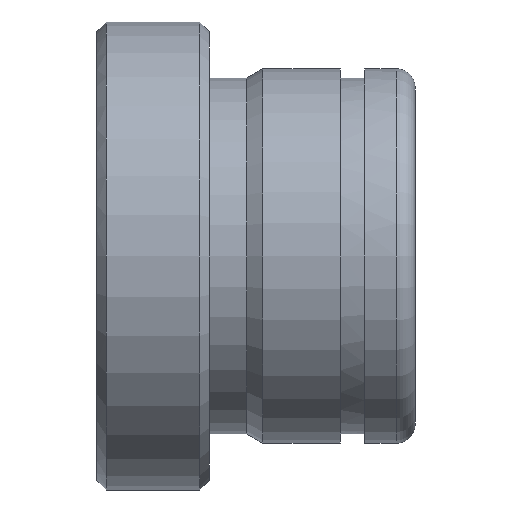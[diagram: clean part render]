
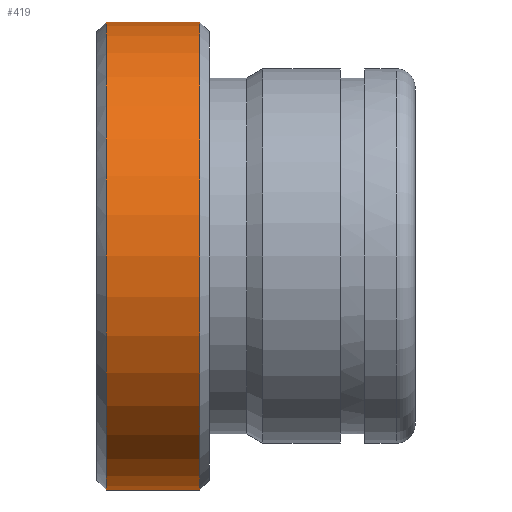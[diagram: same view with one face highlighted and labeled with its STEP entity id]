
A CAD part, front view. The second image highlights one B-rep face of the part: STEP entity #419.
In plain terms, the highlighted cylindrical face has radius 12.5 mm (diameter 25 mm), a partial arc.
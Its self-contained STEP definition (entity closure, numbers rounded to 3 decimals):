
#231=CARTESIAN_POINT('Vertex',(0.5,0.,-12.5)) ;
#238=CARTESIAN_POINT('Vertex',(0.5,0.,12.5)) ;
#267=CARTESIAN_POINT('Axis2P3D Location',(0.5,0.,0.)) ;
#271=CARTESIAN_POINT('Vertex',(0.5,-12.5,0.)) ;
#274=CARTESIAN_POINT('Axis2P3D Location',(0.5,0.,0.)) ;
#359=CARTESIAN_POINT('Line Origine',(34.,0.,12.5)) ;
#363=CARTESIAN_POINT('Vertex',(5.5,0.,12.5)) ;
#377=CARTESIAN_POINT('Vertex',(5.5,0.,-12.5)) ;
#380=CARTESIAN_POINT('Line Origine',(34.,0.,-12.5)) ;
#394=CARTESIAN_POINT('Axis2P3D Location',(34.,0.,0.)) ;
#399=CARTESIAN_POINT('Axis2P3D Location',(5.5,0.,0.)) ;
#403=CARTESIAN_POINT('Vertex',(5.5,-12.5,0.)) ;
#406=CARTESIAN_POINT('Axis2P3D Location',(5.5,0.,0.)) ;
#268=DIRECTION('Axis2P3D Direction',(1.,0.,-0.)) ;
#275=DIRECTION('Axis2P3D Direction',(1.,0.,-0.)) ;
#360=DIRECTION('Vector Direction',(-1.,0.,0.)) ;
#381=DIRECTION('Vector Direction',(-1.,0.,0.)) ;
#395=DIRECTION('Axis2P3D Direction',(-1.,-0.,-0.)) ;
#396=DIRECTION('Axis2P3D XDirection',(0.,0.,-1.)) ;
#400=DIRECTION('Axis2P3D Direction',(-1.,-0.,-0.)) ;
#407=DIRECTION('Axis2P3D Direction',(-1.,-0.,-0.)) ;
#269=AXIS2_PLACEMENT_3D('Circle Axis2P3D',#267,#268,$) ;
#276=AXIS2_PLACEMENT_3D('Circle Axis2P3D',#274,#275,$) ;
#397=AXIS2_PLACEMENT_3D('Cylinder Axis2P3D',#394,#395,#396) ;
#401=AXIS2_PLACEMENT_3D('Circle Axis2P3D',#399,#400,$) ;
#408=AXIS2_PLACEMENT_3D('Circle Axis2P3D',#406,#407,$) ;
#412=ORIENTED_EDGE('',*,*,#384,.T.) ;
#413=ORIENTED_EDGE('',*,*,#405,.F.) ;
#414=ORIENTED_EDGE('',*,*,#410,.F.) ;
#415=ORIENTED_EDGE('',*,*,#365,.T.) ;
#416=ORIENTED_EDGE('',*,*,#278,.T.) ;
#417=ORIENTED_EDGE('',*,*,#273,.T.) ;
#361=VECTOR('Line Direction',#360,1.) ;
#382=VECTOR('Line Direction',#381,1.) ;
#419=ADVANCED_FACE('553-14x17',(#418),#398,.T.) ;
#270=CIRCLE('generated circle',#269,12.5) ;
#277=CIRCLE('generated circle',#276,12.5) ;
#402=CIRCLE('generated circle',#401,12.5) ;
#409=CIRCLE('generated circle',#408,12.5) ;
#398=CYLINDRICAL_SURFACE('generated cylinder',#397,12.5) ;
#273=EDGE_CURVE('',#272,#232,#270,.T.) ;
#278=EDGE_CURVE('',#239,#272,#277,.T.) ;
#365=EDGE_CURVE('',#364,#239,#362,.T.) ;
#384=EDGE_CURVE('',#232,#378,#383,.F.) ;
#405=EDGE_CURVE('',#404,#378,#402,.F.) ;
#410=EDGE_CURVE('',#364,#404,#409,.F.) ;
#411=EDGE_LOOP('',(#412,#413,#414,#415,#416,#417)) ;
#418=FACE_OUTER_BOUND('',#411,.T.) ;
#362=LINE('Line',#359,#361) ;
#383=LINE('Line',#380,#382) ;
#232=VERTEX_POINT('',#231) ;
#239=VERTEX_POINT('',#238) ;
#272=VERTEX_POINT('',#271) ;
#364=VERTEX_POINT('',#363) ;
#378=VERTEX_POINT('',#377) ;
#404=VERTEX_POINT('',#403) ;
